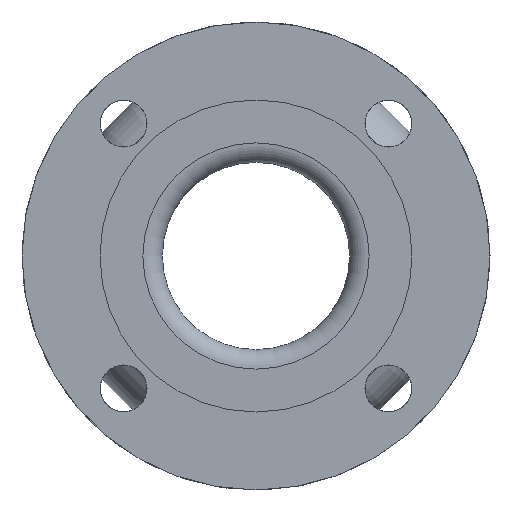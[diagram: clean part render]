
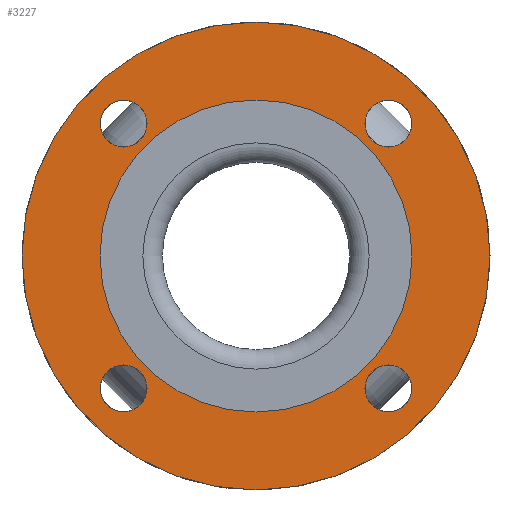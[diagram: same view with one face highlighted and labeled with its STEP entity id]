
A CAD part, left-side view. The second image highlights one B-rep face of the part: STEP entity #3227.
In plain terms, the highlighted planar face has unit normal (-1, 0, 0).
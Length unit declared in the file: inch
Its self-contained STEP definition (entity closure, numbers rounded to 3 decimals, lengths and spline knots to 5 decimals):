
#384=PLANE('',#3441);
#446=FACE_BOUND('',#751,.T.);
#447=FACE_BOUND('',#752,.T.);
#448=FACE_BOUND('',#753,.T.);
#449=FACE_BOUND('',#754,.T.);
#450=FACE_BOUND('',#755,.T.);
#550=FACE_OUTER_BOUND('',#750,.T.);
#750=EDGE_LOOP('',(#2058));
#751=EDGE_LOOP('',(#2059));
#752=EDGE_LOOP('',(#2060));
#753=EDGE_LOOP('',(#2061));
#754=EDGE_LOOP('',(#2062));
#755=EDGE_LOOP('',(#2063));
#1031=CIRCLE('',#3419,0.375);
#1033=CIRCLE('',#3422,0.375);
#1035=CIRCLE('',#3425,0.375);
#1037=CIRCLE('',#3428,0.375);
#1046=CIRCLE('',#3442,3.75);
#1047=CIRCLE('',#3443,2.5);
#1291=VERTEX_POINT('',#4939);
#1293=VERTEX_POINT('',#4944);
#1295=VERTEX_POINT('',#4949);
#1297=VERTEX_POINT('',#4954);
#1306=VERTEX_POINT('',#4977);
#1307=VERTEX_POINT('',#4979);
#1607=EDGE_CURVE('',#1291,#1291,#1031,.T.);
#1609=EDGE_CURVE('',#1293,#1293,#1033,.T.);
#1611=EDGE_CURVE('',#1295,#1295,#1035,.T.);
#1613=EDGE_CURVE('',#1297,#1297,#1037,.T.);
#1622=EDGE_CURVE('',#1306,#1306,#1046,.T.);
#1623=EDGE_CURVE('',#1307,#1307,#1047,.T.);
#2058=ORIENTED_EDGE('',*,*,#1622,.F.);
#2059=ORIENTED_EDGE('',*,*,#1607,.T.);
#2060=ORIENTED_EDGE('',*,*,#1609,.T.);
#2061=ORIENTED_EDGE('',*,*,#1611,.T.);
#2062=ORIENTED_EDGE('',*,*,#1613,.T.);
#2063=ORIENTED_EDGE('',*,*,#1623,.T.);
#3227=ADVANCED_FACE('',(#550,#446,#447,#448,#449,#450),#384,.T.);
#3419=AXIS2_PLACEMENT_3D('',#4940,#3875,#3876);
#3422=AXIS2_PLACEMENT_3D('',#4945,#3881,#3882);
#3425=AXIS2_PLACEMENT_3D('',#4950,#3887,#3888);
#3428=AXIS2_PLACEMENT_3D('',#4955,#3893,#3894);
#3441=AXIS2_PLACEMENT_3D('',#4976,#3919,#3920);
#3442=AXIS2_PLACEMENT_3D('',#4978,#3921,#3922);
#3443=AXIS2_PLACEMENT_3D('',#4980,#3923,#3924);
#3875=DIRECTION('center_axis',(1.,0.,0.));
#3876=DIRECTION('ref_axis',(0.,-1.,0.));
#3881=DIRECTION('center_axis',(1.,0.,0.));
#3882=DIRECTION('ref_axis',(0.,0.,1.));
#3887=DIRECTION('center_axis',(1.,0.,0.));
#3888=DIRECTION('ref_axis',(0.,1.,0.));
#3893=DIRECTION('center_axis',(1.,0.,0.));
#3894=DIRECTION('ref_axis',(0.,0.,-1.));
#3919=DIRECTION('center_axis',(-1.,0.,0.));
#3920=DIRECTION('ref_axis',(0.,0.,1.));
#3921=DIRECTION('center_axis',(1.,0.,0.));
#3922=DIRECTION('ref_axis',(0.,0.,-1.));
#3923=DIRECTION('center_axis',(1.,0.,0.));
#3924=DIRECTION('ref_axis',(0.,0.,-1.));
#4939=CARTESIAN_POINT('',(-5.,-1.74632,-2.12132));
#4940=CARTESIAN_POINT('Origin',(-5.,-2.12132,-2.12132));
#4944=CARTESIAN_POINT('',(-5.,-2.12132,1.74632));
#4945=CARTESIAN_POINT('Origin',(-5.,-2.12132,2.12132));
#4949=CARTESIAN_POINT('',(-5.,1.74632,2.12132));
#4950=CARTESIAN_POINT('Origin',(-5.,2.12132,2.12132));
#4954=CARTESIAN_POINT('',(-5.,2.12132,-1.74632));
#4955=CARTESIAN_POINT('Origin',(-5.,2.12132,-2.12132));
#4976=CARTESIAN_POINT('Origin',(-5.,3.75,0.));
#4977=CARTESIAN_POINT('',(-5.,3.75,0.));
#4978=CARTESIAN_POINT('Origin',(-5.,0.,0.));
#4979=CARTESIAN_POINT('',(-5.,2.5,0.));
#4980=CARTESIAN_POINT('Origin',(-5.,0.,0.));
